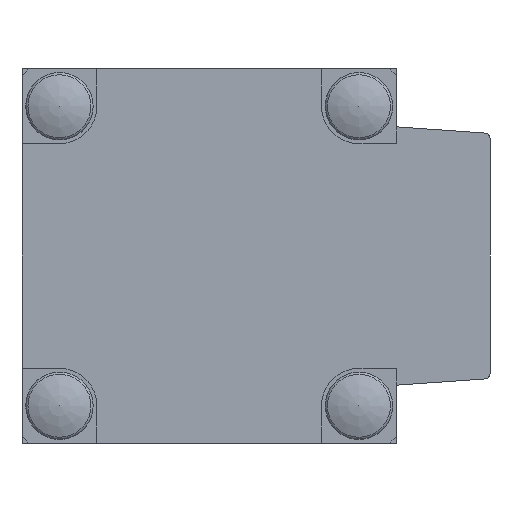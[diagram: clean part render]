
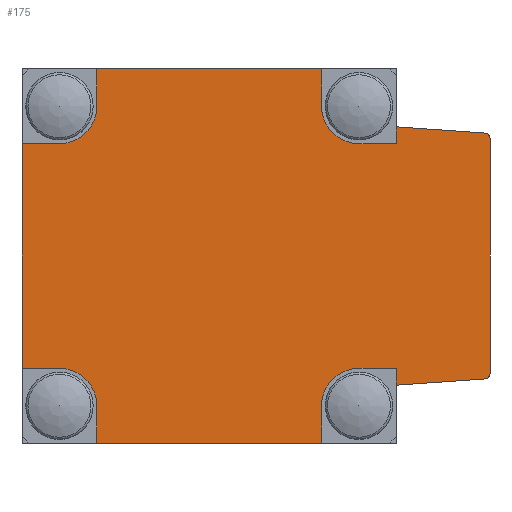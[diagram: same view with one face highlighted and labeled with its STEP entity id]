
A CAD part, left-side view. The second image highlights one B-rep face of the part: STEP entity #175.
In plain terms, the highlighted planar face has unit normal (-1, 0, 0).
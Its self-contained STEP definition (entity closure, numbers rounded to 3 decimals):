
#175 = ADVANCED_FACE( '', ( #438 ), #439, .F. );
#438 = FACE_OUTER_BOUND( '', #1027, .T. );
#439 = PLANE( '', #1028 );
#1027 = EDGE_LOOP( '', ( #1795, #1796, #1797, #1798, #1799, #1800, #1801, #1802, #1803, #1804, #1805, #1806, #1807, #1808, #1809, #1810, #1811, #1812, #1813, #1814, #1815, #1816 ) );
#1028 = AXIS2_PLACEMENT_3D( '', #1817, #1818, #1819 );
#1795 = ORIENTED_EDGE( '', *, *, #3733, .F. );
#1796 = ORIENTED_EDGE( '', *, *, #3734, .T. );
#1797 = ORIENTED_EDGE( '', *, *, #3735, .F. );
#1798 = ORIENTED_EDGE( '', *, *, #3736, .T. );
#1799 = ORIENTED_EDGE( '', *, *, #3737, .F. );
#1800 = ORIENTED_EDGE( '', *, *, #3738, .T. );
#1801 = ORIENTED_EDGE( '', *, *, #3739, .F. );
#1802 = ORIENTED_EDGE( '', *, *, #3740, .T. );
#1803 = ORIENTED_EDGE( '', *, *, #3741, .F. );
#1804 = ORIENTED_EDGE( '', *, *, #3742, .T. );
#1805 = ORIENTED_EDGE( '', *, *, #3743, .F. );
#1806 = ORIENTED_EDGE( '', *, *, #3744, .T. );
#1807 = ORIENTED_EDGE( '', *, *, #3745, .F. );
#1808 = ORIENTED_EDGE( '', *, *, #3746, .F. );
#1809 = ORIENTED_EDGE( '', *, *, #3747, .F. );
#1810 = ORIENTED_EDGE( '', *, *, #3748, .F. );
#1811 = ORIENTED_EDGE( '', *, *, #3749, .F. );
#1812 = ORIENTED_EDGE( '', *, *, #3731, .F. );
#1813 = ORIENTED_EDGE( '', *, *, #3750, .F. );
#1814 = ORIENTED_EDGE( '', *, *, #3751, .T. );
#1815 = ORIENTED_EDGE( '', *, *, #3752, .F. );
#1816 = ORIENTED_EDGE( '', *, *, #3753, .T. );
#1817 = CARTESIAN_POINT( '', ( -50., 0., 0. ) );
#1818 = DIRECTION( '', ( 1., 0., 0. ) );
#1819 = DIRECTION( '', ( 0., 0., -1. ) );
#3731 = EDGE_CURVE( '', #4369, #4371, #4372, .T. );
#3733 = EDGE_CURVE( '', #4374, #4375, #4376, .T. );
#3734 = EDGE_CURVE( '', #4374, #4377, #4378, .T. );
#3735 = EDGE_CURVE( '', #4379, #4377, #4380, .F. );
#3736 = EDGE_CURVE( '', #4379, #4381, #4382, .T. );
#3737 = EDGE_CURVE( '', #4383, #4381, #4384, .T. );
#3738 = EDGE_CURVE( '', #4383, #4385, #4386, .T. );
#3739 = EDGE_CURVE( '', #4387, #4385, #4388, .F. );
#3740 = EDGE_CURVE( '', #4387, #4389, #4390, .T. );
#3741 = EDGE_CURVE( '', #4391, #4389, #4392, .T. );
#3742 = EDGE_CURVE( '', #4391, #4393, #4394, .T. );
#3743 = EDGE_CURVE( '', #4395, #4393, #4396, .F. );
#3744 = EDGE_CURVE( '', #4395, #4397, #4398, .T. );
#3745 = EDGE_CURVE( '', #4399, #4397, #4400, .T. );
#3746 = EDGE_CURVE( '', #4401, #4399, #4402, .T. );
#3747 = EDGE_CURVE( '', #4403, #4401, #4404, .T. );
#3748 = EDGE_CURVE( '', #4405, #4403, #4406, .T. );
#3749 = EDGE_CURVE( '', #4371, #4405, #4407, .T. );
#3750 = EDGE_CURVE( '', #4408, #4369, #4409, .T. );
#3751 = EDGE_CURVE( '', #4408, #4410, #4411, .T. );
#3752 = EDGE_CURVE( '', #4412, #4410, #4413, .F. );
#3753 = EDGE_CURVE( '', #4412, #4375, #4414, .T. );
#4369 = VERTEX_POINT( '', #5423 );
#4371 = VERTEX_POINT( '', #5426 );
#4372 = LINE( '', #5427, #5428 );
#4374 = VERTEX_POINT( '', #5431 );
#4375 = VERTEX_POINT( '', #5432 );
#4376 = LINE( '', #5433, #5434 );
#4377 = VERTEX_POINT( '', #5435 );
#4378 = LINE( '', #5436, #5437 );
#4379 = VERTEX_POINT( '', #5438 );
#4380 = CIRCLE( '', #5439, 2. );
#4381 = VERTEX_POINT( '', #5440 );
#4382 = LINE( '', #5441, #5442 );
#4383 = VERTEX_POINT( '', #5443 );
#4384 = LINE( '', #5444, #5445 );
#4385 = VERTEX_POINT( '', #5446 );
#4386 = LINE( '', #5447, #5448 );
#4387 = VERTEX_POINT( '', #5449 );
#4388 = CIRCLE( '', #5450, 2. );
#4389 = VERTEX_POINT( '', #5451 );
#4390 = LINE( '', #5452, #5453 );
#4391 = VERTEX_POINT( '', #5454 );
#4392 = LINE( '', #5455, #5456 );
#4393 = VERTEX_POINT( '', #5457 );
#4394 = LINE( '', #5458, #5459 );
#4395 = VERTEX_POINT( '', #5460 );
#4396 = CIRCLE( '', #5461, 2. );
#4397 = VERTEX_POINT( '', #5462 );
#4398 = LINE( '', #5463, #5464 );
#4399 = VERTEX_POINT( '', #5465 );
#4400 = LINE( '', #5466, #5467 );
#4401 = VERTEX_POINT( '', #5468 );
#4402 = LINE( '', #5469, #5470 );
#4403 = VERTEX_POINT( '', #5471 );
#4404 = CIRCLE( '', #5472, 0.3 );
#4405 = VERTEX_POINT( '', #5473 );
#4406 = LINE( '', #5474, #5475 );
#4407 = CIRCLE( '', #5476, 0.3 );
#4408 = VERTEX_POINT( '', #5477 );
#4409 = LINE( '', #5478, #5479 );
#4410 = VERTEX_POINT( '', #5480 );
#4411 = LINE( '', #5481, #5482 );
#4412 = VERTEX_POINT( '', #5483 );
#4413 = CIRCLE( '', #5484, 2. );
#4414 = LINE( '', #5485, #5486 );
#5423 = CARTESIAN_POINT( '', ( -50., -10., 6.9 ) );
#5426 = CARTESIAN_POINT( '', ( -50., -14.721, 6.57 ) );
#5427 = CARTESIAN_POINT( '', ( -50., -10., 6.9 ) );
#5428 = VECTOR( '', #6992, 1000. );
#5431 = CARTESIAN_POINT( '', ( -50., 6., 10. ) );
#5432 = CARTESIAN_POINT( '', ( -50., -6., 10. ) );
#5433 = CARTESIAN_POINT( '', ( -50., 9.646, 10. ) );
#5434 = VECTOR( '', #6994, 1000. );
#5435 = CARTESIAN_POINT( '', ( -50., 6., 8. ) );
#5436 = CARTESIAN_POINT( '', ( -50., 6., 0. ) );
#5437 = VECTOR( '', #6995, 1000. );
#5438 = CARTESIAN_POINT( '', ( -50., 8., 6. ) );
#5439 = AXIS2_PLACEMENT_3D( '', #6996, #6997, #6998 );
#5440 = CARTESIAN_POINT( '', ( -50., 10., 6. ) );
#5441 = CARTESIAN_POINT( '', ( -50., 0., 6. ) );
#5442 = VECTOR( '', #6999, 1000. );
#5443 = CARTESIAN_POINT( '', ( -50., 10., -6. ) );
#5444 = CARTESIAN_POINT( '', ( -50., 10., -9.646 ) );
#5445 = VECTOR( '', #7000, 1000. );
#5446 = CARTESIAN_POINT( '', ( -50., 8., -6. ) );
#5447 = CARTESIAN_POINT( '', ( -50., 0., -6. ) );
#5448 = VECTOR( '', #7001, 1000. );
#5449 = CARTESIAN_POINT( '', ( -50., 6., -8. ) );
#5450 = AXIS2_PLACEMENT_3D( '', #7002, #7003, #7004 );
#5451 = CARTESIAN_POINT( '', ( -50., 6., -10. ) );
#5452 = CARTESIAN_POINT( '', ( -50., 6., 0. ) );
#5453 = VECTOR( '', #7005, 1000. );
#5454 = CARTESIAN_POINT( '', ( -50., -6., -10. ) );
#5455 = CARTESIAN_POINT( '', ( -50., -9.646, -10. ) );
#5456 = VECTOR( '', #7006, 1000. );
#5457 = CARTESIAN_POINT( '', ( -50., -6., -8. ) );
#5458 = CARTESIAN_POINT( '', ( -50., -6., 0. ) );
#5459 = VECTOR( '', #7007, 1000. );
#5460 = CARTESIAN_POINT( '', ( -50., -8., -6. ) );
#5461 = AXIS2_PLACEMENT_3D( '', #7008, #7009, #7010 );
#5462 = CARTESIAN_POINT( '', ( -50., -10., -6. ) );
#5463 = CARTESIAN_POINT( '', ( -50., 0., -6. ) );
#5464 = VECTOR( '', #7011, 1000. );
#5465 = CARTESIAN_POINT( '', ( -50., -10., -6.9 ) );
#5466 = CARTESIAN_POINT( '', ( -50., -10., -6.9 ) );
#5467 = VECTOR( '', #7012, 1000. );
#5468 = CARTESIAN_POINT( '', ( -50., -14.721, -6.57 ) );
#5469 = CARTESIAN_POINT( '', ( -50., -14.721, -6.57 ) );
#5470 = VECTOR( '', #7013, 1000. );
#5471 = CARTESIAN_POINT( '', ( -50., -15., -6.271 ) );
#5472 = AXIS2_PLACEMENT_3D( '', #7014, #7015, #7016 );
#5473 = CARTESIAN_POINT( '', ( -50., -15., 6.271 ) );
#5474 = CARTESIAN_POINT( '', ( -50., -15., 6.271 ) );
#5475 = VECTOR( '', #7017, 1000. );
#5476 = AXIS2_PLACEMENT_3D( '', #7018, #7019, #7020 );
#5477 = CARTESIAN_POINT( '', ( -50., -10., 6. ) );
#5478 = CARTESIAN_POINT( '', ( -50., -10., -6.9 ) );
#5479 = VECTOR( '', #7021, 1000. );
#5480 = CARTESIAN_POINT( '', ( -50., -8., 6. ) );
#5481 = CARTESIAN_POINT( '', ( -50., 0., 6. ) );
#5482 = VECTOR( '', #7022, 1000. );
#5483 = CARTESIAN_POINT( '', ( -50., -6., 8. ) );
#5484 = AXIS2_PLACEMENT_3D( '', #7023, #7024, #7025 );
#5485 = CARTESIAN_POINT( '', ( -50., -6., 0. ) );
#5486 = VECTOR( '', #7026, 1000. );
#6992 = DIRECTION( '', ( 0., -0.998, -0.07 ) );
#6994 = DIRECTION( '', ( 0., -1., 0. ) );
#6995 = DIRECTION( '', ( 0., 0., -1. ) );
#6996 = CARTESIAN_POINT( '', ( -50., 8., 8. ) );
#6997 = DIRECTION( '', ( 1., 0., 0. ) );
#6998 = DIRECTION( '', ( 0., 0., -1. ) );
#6999 = DIRECTION( '', ( 0., 1., 0. ) );
#7000 = DIRECTION( '', ( 0., 0., 1. ) );
#7001 = DIRECTION( '', ( 0., -1., 0. ) );
#7002 = CARTESIAN_POINT( '', ( -50., 8., -8. ) );
#7003 = DIRECTION( '', ( 1., 0., 0. ) );
#7004 = DIRECTION( '', ( 0., 0., -1. ) );
#7005 = DIRECTION( '', ( 0., 0., -1. ) );
#7006 = DIRECTION( '', ( 0., 1., 0. ) );
#7007 = DIRECTION( '', ( 0., 0., 1. ) );
#7008 = CARTESIAN_POINT( '', ( -50., -8., -8. ) );
#7009 = DIRECTION( '', ( 1., 0., 0. ) );
#7010 = DIRECTION( '', ( 0., 0., -1. ) );
#7011 = DIRECTION( '', ( 0., -1., 0. ) );
#7012 = DIRECTION( '', ( 0., 0., 1. ) );
#7013 = DIRECTION( '', ( 0., 0.998, -0.07 ) );
#7014 = CARTESIAN_POINT( '', ( -50., -14.7, -6.271 ) );
#7015 = DIRECTION( '', ( 1., 0., 0. ) );
#7016 = DIRECTION( '', ( 0., 0., -1. ) );
#7017 = DIRECTION( '', ( 0., 0., -1. ) );
#7018 = CARTESIAN_POINT( '', ( -50., -14.7, 6.271 ) );
#7019 = DIRECTION( '', ( 1., 0., 0. ) );
#7020 = DIRECTION( '', ( 0., 0., -1. ) );
#7021 = DIRECTION( '', ( 0., 0., 1. ) );
#7022 = DIRECTION( '', ( 0., 1., 0. ) );
#7023 = CARTESIAN_POINT( '', ( -50., -8., 8. ) );
#7024 = DIRECTION( '', ( 1., 0., 0. ) );
#7025 = DIRECTION( '', ( 0., 0., -1. ) );
#7026 = DIRECTION( '', ( 0., 0., 1. ) );
